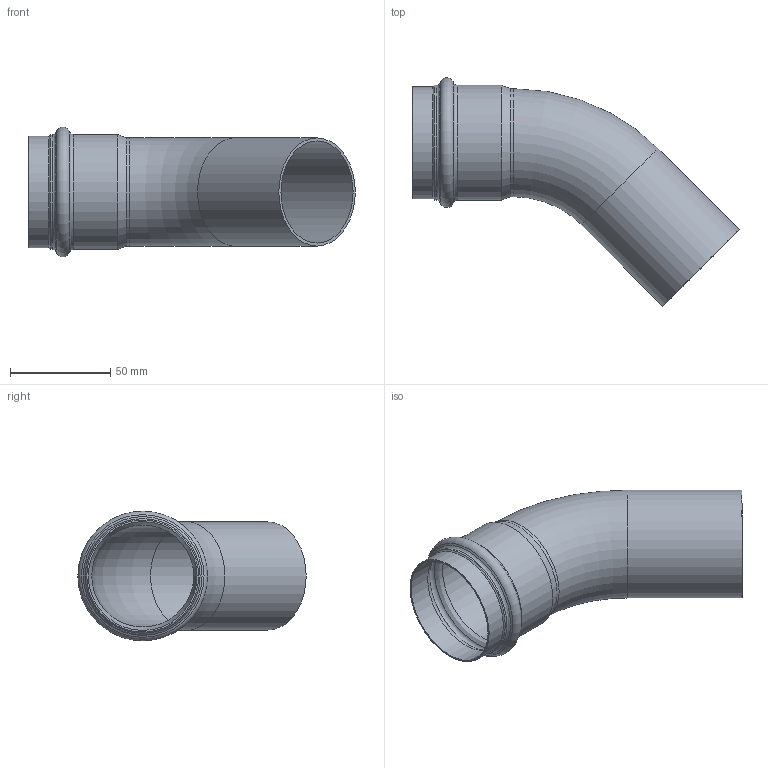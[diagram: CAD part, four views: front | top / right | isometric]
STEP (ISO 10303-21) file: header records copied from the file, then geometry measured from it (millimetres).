
FILE_DESCRIPTION((''),'2;1');
FILE_NAME('G:\Nirosan-Schmiedefeld\Technics\CAD\Bauteile\054\6904054(2).stp','2008-05-27T16:50:14',('herberg'),(''),'Autodesk Inventor 2009','Autodesk Inventor 2009','');
FILE_SCHEMA(('AUTOMOTIVE_DESIGN { 1 0 10303 214 1 1 1 1 }'));
Length unit declared in the file: millimetre
Products named in the file (1): 6904054(2)
Bounding box: 163.17 x 114.07 x 64.8 mm (x, y, z)
Volume: 41859.3 mm3; surface area: 57921.3 mm2
Topology: 1 solids, 1 shells, 24 faces, 50 edges, 28 vertices
Faces by surface type: cylinder 9, cone 5, torus 4, bspline 4, plane 2
Full cylindrical faces by diameter (mm): 51 x2, 54 x2, 54.35 x2, 55.95 x1, 57.35 x2
Entity records: 674 total; most frequent: CARTESIAN_POINT 249, DIRECTION 90, ORIENTED_EDGE 48, EDGE_LOOP 48, AXIS2_PLACEMENT_3D 45, VERTEX_POINT 24, CIRCLE 24, EDGE_CURVE 24
